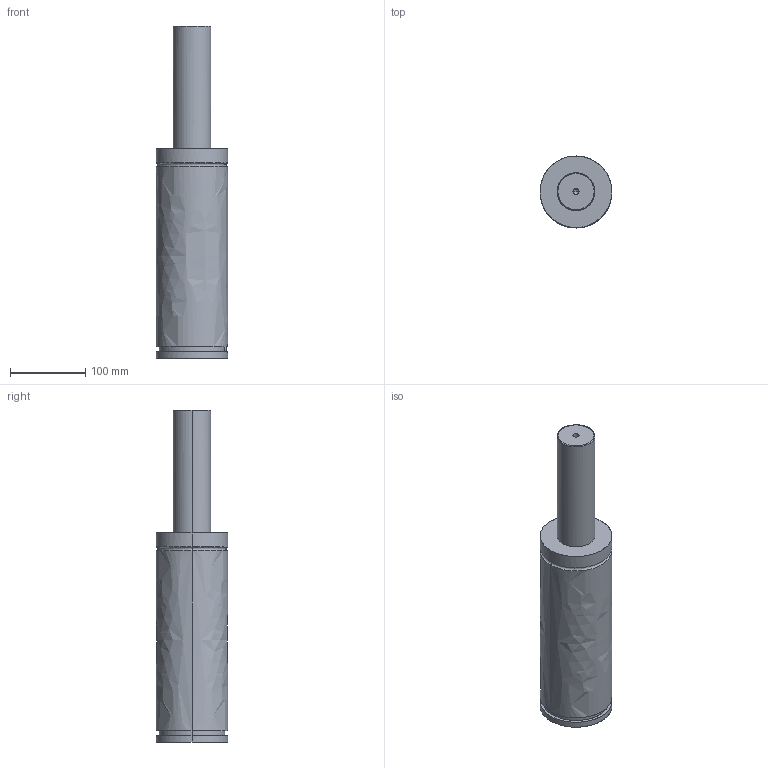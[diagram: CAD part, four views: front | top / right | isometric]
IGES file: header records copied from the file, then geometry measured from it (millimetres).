
Global section: file name: E:\UnigraphicsGraphicData\MISUMI_PRESS-PARTS\IGES\3d_gse95-160_03859_r00.igs; native system: NX V5.0; preprocessor: UGS NX IGES V5.0; author: MISUMI; date: 20110105.160803; units: millimetre
Bounding box: 95 x 95 x 440 mm (x, y, z)
Surface area: 127746.8 mm2 (no closed solid volume)
Topology: 0 solids, 0 shells, 75 faces, 604 edges, 602 vertices
Faces by surface type: bspline 75
